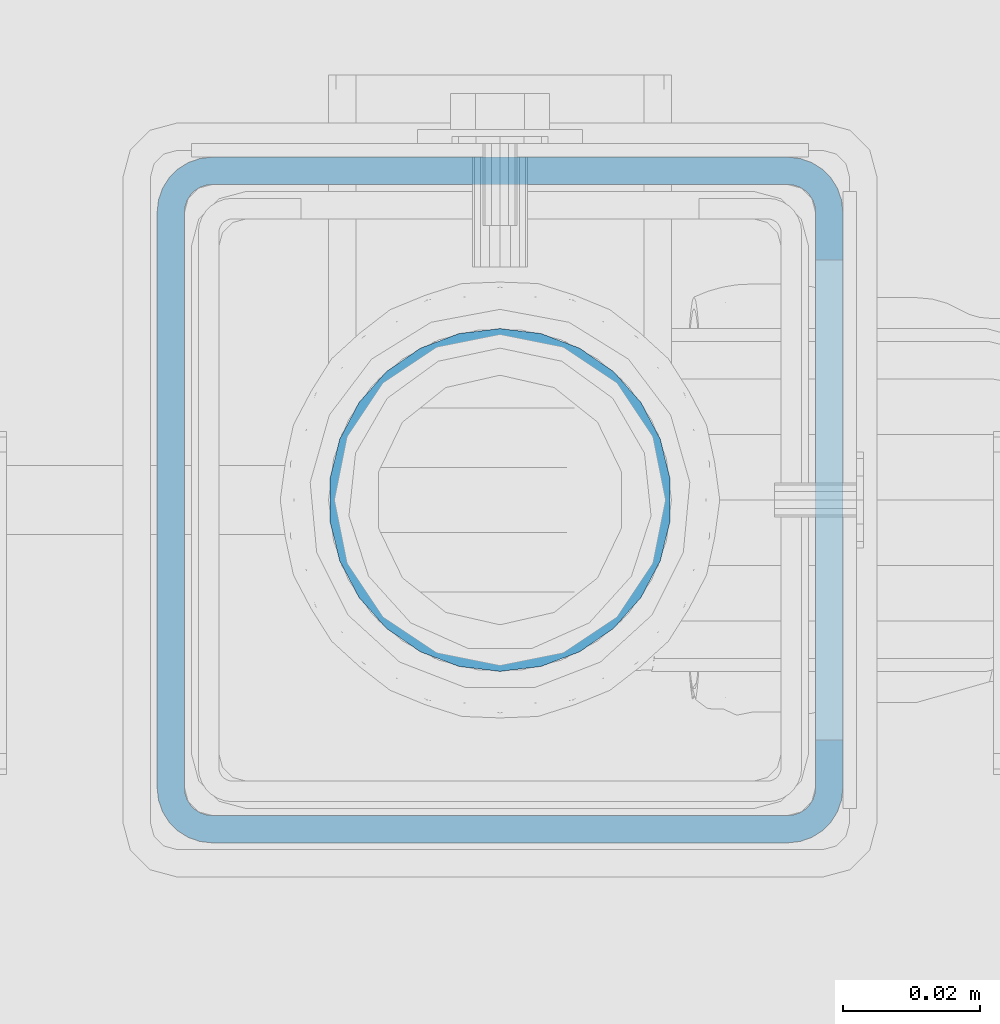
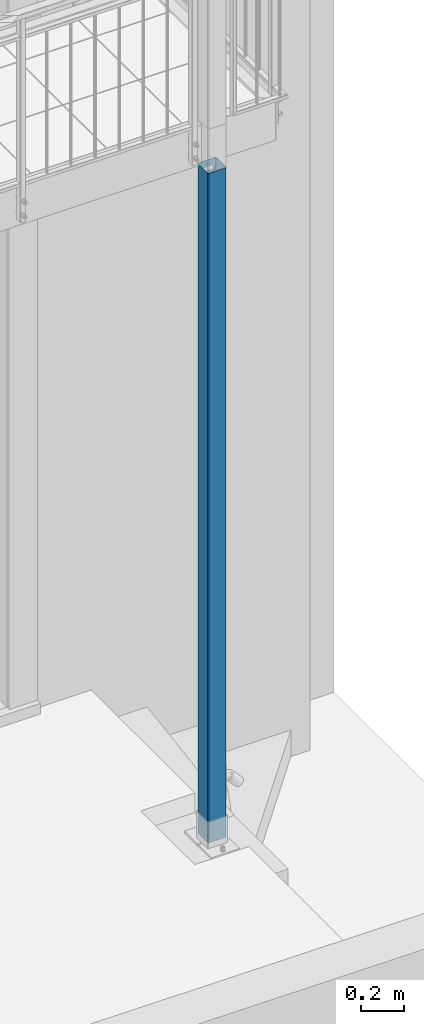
# One storey, part 8 of 162: 2 columns, 6 openings.
"""IFC2X3 building model written with IfcOpenShell, lengths in millimetres."""

from ifc_helpers import new_model, entity, si_unit, converted_unit, point, frame, frame_2d, origin, origin_with_axes, origin_2d, place, context, project, spatial, circle_curve, line_curve, trimmed, segment, composite_curve, hollow_rectangle, circle, hollow_circle, outline, extrude, material, element, save


model = new_model("IFC2X3")

# Units and contexts
model_context = context("Model", 3, precision=1e-09, world=origin_with_axes())
ifc_project = project(units=[si_unit("LENGTHUNIT", "METRE", prefix="MILLI"), si_unit("AREAUNIT", "SQUARE_METRE"), si_unit("VOLUMEUNIT", "CUBIC_METRE"), converted_unit("PLANEANGLEUNIT", "DEGREE", entity("IfcPlaneAngleMeasure", 0.01745329), si_unit("PLANEANGLEUNIT", "RADIAN"), dimensions=[0, 0, 0, 0, 0, 0, 0])], contexts=[model_context])

# Site, building, storey
site_placement = place(None, origin_with_axes())
site = spatial("IfcSite", under=ifc_project, at=site_placement, Name="Hermannstra?e 1a, 60318 Frankfurt", CompositionType="ELEMENT")
building_placement = place(site_placement, origin_with_axes())
building = spatial("IfcBuilding", under=site, at=building_placement, Name="Struktur 1", CompositionType="ELEMENT")
storey_placement = place(building_placement, origin_with_axes())
storey = spatial("IfcBuildingStorey", under=building, at=storey_placement, Name="Default Storey", CompositionType="ELEMENT", Elevation=0.0)

# Column
ifc_material_1 = material(Name="A500 GR.C")
column_1_placement = place(None, frame((5473.309368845, 1530.609373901, 3674.839347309), z_axis=(0.0, 0.0, 1.0), x_axis=(0.0, -1.0, 0.0)))
element("IfcColumn", 1, at=column_1_placement, inside=storey, material=ifc_material_1, Name="-", ObjectType="-", context=model_context, shape_type="SweptSolid", body=[
    extrude(hollow_circle(Radius=25.0, WallThickness=2.5, at=origin_2d()), origin(), (0.0, 0.0, -1.0), 3389.839347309),
])

# Column, openings
ifc_material_2 = material(Name="S235JR")
column_2_placement = place(None, frame((5473.30936482, 1530.609373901, -70.0), z_axis=(0.0, 0.0, 1.0), x_axis=(1.0, 0.0, 0.0)))
column_2 = element("IfcColumn", 2, at=column_2_placement, inside=storey, material=ifc_material_2, Name="-", ObjectType="-", context=model_context, shape_type="SweptSolid", body=[
    extrude(hollow_rectangle(XDim=100.0, YDim=100.0, WallThickness=4.0, InnerFilletRadius=4.0, OuterFilletRadius=8.0, at=origin_2d()), origin(), (0.0, 0.0, 1.0), 3785.0),
])
opening_1_placement = place(column_2_placement, frame((0.0, 45.5, 3675.0), z_axis=(0.0, 1.0, 0.0), x_axis=(-1.0, 0.0, 0.0)))
element("IfcOpeningElement", 3, at=opening_1_placement, cuts=column_2, ObjectType="Opening", context=model_context, shape_type="SweptSolid", body=[
    extrude(circle(Radius=2.751, at=frame_2d((0.0, 90.0), x_axis=(1.0, 0.0))), origin(), (0.0, 0.0, 1.0), 5.0),
])
opening_2_placement = place(column_2_placement, frame((0.0, 45.5, 3675.0), z_axis=(0.0, 1.0, 0.0), x_axis=(-1.0, 0.0, 0.0)))
element("IfcOpeningElement", 4, at=opening_2_placement, cuts=column_2, ObjectType="Opening", context=model_context, shape_type="SweptSolid", body=[
    extrude(circle(Radius=2.751, at=frame_2d((0.0, -90.0), x_axis=(1.0, 0.0))), origin(), (0.0, 0.0, 1.0), 5.0),
])
opening_3_placement = place(column_2_placement, frame((35.001, 150.1, 3612.499), z_axis=(0.0, 1.0, 0.0), x_axis=(-0.707106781, 0.0, -0.707106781)))
element("IfcOpeningElement", 5, at=opening_3_placement, cuts=column_2, ObjectType="Opening", context=model_context, shape_type="SweptSolid", body=[
    extrude(outline(composite_curve([segment(trimmed(circle_curve(frame_2d((7.071067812, 7.071067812), x_axis=(1.0, 0.0)), 10.0), [point((0.0, 0.0))], [point((14.142135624, 0.0))], True, "CARTESIAN"), True, "CONTINUOUS"), segment(trimmed(line_curve((14.142135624, 0.0), (0.707106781, 0.707106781), 50.002), [point((14.142135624, 0.0))], [point((49.498888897, 35.356753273))], True, "CARTESIAN"), True, "CONTINUOUS"), segment(trimmed(circle_curve(frame_2d((42.427821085, 42.427821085), x_axis=(1.0, 0.0)), 10.0), [point((49.498888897, 35.356753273))], [point((49.498888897, 49.498888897))], True, "CARTESIAN"), True, "CONTINUOUS"), segment(trimmed(line_curve((49.498888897, 49.498888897), (-0.707106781, 0.707106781), 125.002), [point((49.498888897, 49.498888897))], [point((-38.890872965, 137.888650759))], True, "CARTESIAN"), True, "CONTINUOUS"), segment(trimmed(circle_curve(frame_2d((-45.961940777, 130.817582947), x_axis=(1.0, 0.0)), 10.0), [point((-38.890872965, 137.888650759))], [point((-53.033008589, 137.888650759))], True, "CARTESIAN"), True, "CONTINUOUS"), segment(trimmed(line_curve((-53.033008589, 137.888650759), (-0.707106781, -0.707106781), 50.002), [point((-53.033008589, 137.888650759))], [point((-88.389761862, 102.531897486))], True, "CARTESIAN"), True, "CONTINUOUS"), segment(trimmed(circle_curve(frame_2d((-81.31869405, 95.460829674), x_axis=(1.0, 0.0)), 10.0), [point((-88.389761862, 102.531897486))], [point((-88.389761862, 88.389761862))], True, "CARTESIAN"), True, "CONTINUOUS"), segment(trimmed(line_curve((-88.389761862, 88.389761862), (0.707106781, -0.707106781), 125.002), [point((-88.389761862, 88.389761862))], [point((0.0, 0.0))], True, "CARTESIAN"), True, "CONTINUOUS")], self_intersect=False)), origin(), (0.0, 0.0, -1.0), 170.1),
])
opening_4_placement = place(column_2_placement, frame((150.1, 0.0, 300.0), z_axis=(-1.0, 0.0, 0.0), x_axis=(0.0, -1.0, 0.0)))
element("IfcOpeningElement", 6, at=opening_4_placement, cuts=column_2, ObjectType="Opening", context=model_context, shape_type="SweptSolid", body=[
    extrude(outline(composite_curve([segment(trimmed(circle_curve(frame_2d((-25.001, -52.501), x_axis=(1.0, 0.0)), 10.0), [point((-35.001, -52.501))], [point((-25.001, -62.501))], True, "CARTESIAN"), True, "CONTINUOUS"), segment(trimmed(line_curve((-25.001, -62.501), (1.0, 0.0), 50.002), [point((-25.001, -62.501))], [point((25.001, -62.501))], True, "CARTESIAN"), True, "CONTINUOUS"), segment(trimmed(circle_curve(frame_2d((25.001, -52.501), x_axis=(1.0, 0.0)), 10.0), [point((25.001, -62.501))], [point((35.001, -52.501))], True, "CARTESIAN"), True, "CONTINUOUS"), segment(trimmed(line_curve((35.001, -52.501), (0.0, 1.0), 125.002), [point((35.001, -52.501))], [point((35.001, 72.501))], True, "CARTESIAN"), True, "CONTINUOUS"), segment(trimmed(circle_curve(frame_2d((25.001, 72.501), x_axis=(1.0, 0.0)), 10.0), [point((35.001, 72.501))], [point((25.001, 82.501))], True, "CARTESIAN"), True, "CONTINUOUS"), segment(trimmed(line_curve((25.001, 82.501), (-1.0, 0.0), 50.002), [point((25.001, 82.501))], [point((-25.001, 82.501))], True, "CARTESIAN"), True, "CONTINUOUS"), segment(trimmed(circle_curve(frame_2d((-25.001, 72.501), x_axis=(1.0, 0.0)), 10.0), [point((-25.001, 82.501))], [point((-35.001, 72.501))], True, "CARTESIAN"), True, "CONTINUOUS"), segment(trimmed(line_curve((-35.001, 72.501), (0.0, -1.0), 125.002), [point((-35.001, 72.501))], [point((-35.001, -52.501))], True, "CARTESIAN"), True, "CONTINUOUS")], self_intersect=False)), origin(), (0.0, 0.0, 1.0), 170.1),
])
opening_5_placement = place(column_2_placement, frame((45.5, 2.751, 400.0), z_axis=(-1.0, 0.0, 0.0), x_axis=(0.0, -1.0, 0.0)))
element("IfcOpeningElement", 7, at=opening_5_placement, cuts=column_2, ObjectType="Opening", context=model_context, shape_type="SweptSolid", body=[
    extrude(circle(Radius=2.751, at=frame_2d((2.751, 0.0), x_axis=(1.0, 0.0))), origin(), (0.0, 0.0, -1.0), 5.0),
])
opening_6_placement = place(column_2_placement, frame((45.5, 2.751, 220.0), z_axis=(-1.0, 0.0, 0.0), x_axis=(0.0, -1.0, 0.0)))
element("IfcOpeningElement", 8, at=opening_6_placement, cuts=column_2, ObjectType="Opening", context=model_context, shape_type="SweptSolid", body=[
    extrude(circle(Radius=2.751, at=frame_2d((2.751, 0.0), x_axis=(1.0, 0.0))), origin(), (0.0, 0.0, -1.0), 5.0),
])

save(model, "model.ifc")
